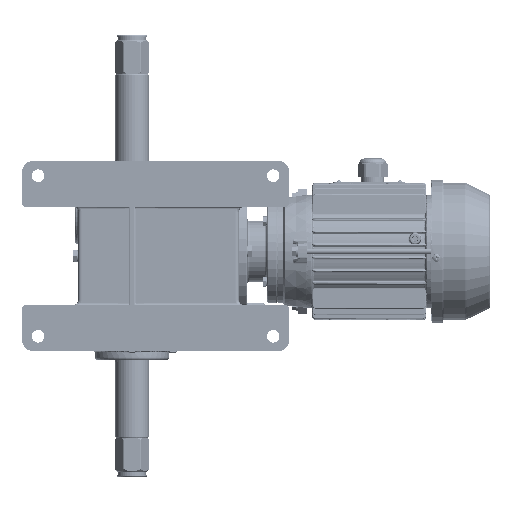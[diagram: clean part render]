
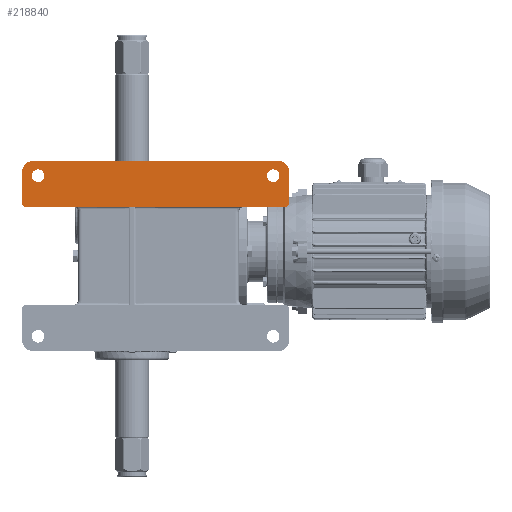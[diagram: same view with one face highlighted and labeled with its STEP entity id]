
A CAD part, left-side view. The second image highlights one B-rep face of the part: STEP entity #218840.
In plain terms, the highlighted planar face has unit normal (-1, 0, 0) as drawn and (0, 1, 0) by its records, which use the part's own axes.
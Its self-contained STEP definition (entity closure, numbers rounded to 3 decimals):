
#7359 = EDGE_CURVE ( 'NONE', #160595, #103721, #149668, .T. ) ;
#16594 = CARTESIAN_POINT ( 'NONE',  ( -36., 60., -123. ) ) ;
#22639 = EDGE_LOOP ( 'NONE', ( #76741, #61466 ) ) ;
#29170 = ORIENTED_EDGE ( 'NONE', *, *, #55855, .T. ) ;
#31118 = EDGE_CURVE ( 'NONE', #135537, #160595, #438470, .T. ) ;
#34132 = DIRECTION ( 'NONE',  ( 0., 0., 1. ) ) ;
#35158 = AXIS2_PLACEMENT_3D ( 'NONE', #142396, #63646, #196718 ) ;
#37032 = EDGE_CURVE ( 'NONE', #393745, #159294, #205882, .T. ) ;
#38377 = VECTOR ( 'NONE', #392286, 1000. ) ;
#39392 = FACE_BOUND ( 'NONE', #242767, .T. ) ;
#41652 = AXIS2_PLACEMENT_3D ( 'NONE', #53472, #274231, #198535 ) ;
#42623 = FACE_BOUND ( 'NONE', #22639, .T. ) ;
#44317 = EDGE_CURVE ( 'NONE', #228897, #101574, #142590, .T. ) ;
#53472 = CARTESIAN_POINT ( 'NONE',  ( -39., 60., -127. ) ) ;
#54121 = CARTESIAN_POINT ( 'NONE',  ( -49., 60., -137. ) ) ;
#55855 = EDGE_CURVE ( 'NONE', #79688, #228897, #199556, .T. ) ;
#57268 = DIRECTION ( 'NONE',  ( 0., 0., 1. ) ) ;
#61466 = ORIENTED_EDGE ( 'NONE', *, *, #440190, .F. ) ;
#63646 = DIRECTION ( 'NONE',  ( 0., 1., 0. ) ) ;
#64222 = DIRECTION ( 'NONE',  ( 0., 1., 0. ) ) ;
#66572 = EDGE_LOOP ( 'NONE', ( #198033, #172292, #257344, #216037, #458154, #415564, #240783, #29170, #328653, #469748 ) ) ;
#73511 = DIRECTION ( 'NONE',  ( 0., 0., -1. ) ) ;
#74029 = DIRECTION ( 'NONE',  ( 0., 0., -1. ) ) ;
#76741 = ORIENTED_EDGE ( 'NONE', *, *, #399737, .F. ) ;
#77719 = CARTESIAN_POINT ( 'NONE',  ( -36., 60., 82. ) ) ;
#79688 = VERTEX_POINT ( 'NONE', #380260 ) ;
#97643 = ORIENTED_EDGE ( 'NONE', *, *, #167633, .F. ) ;
#101574 = VERTEX_POINT ( 'NONE', #370991 ) ;
#102627 = CARTESIAN_POINT ( 'NONE',  ( -12., 60., 96. ) ) ;
#103721 = VERTEX_POINT ( 'NONE', #293378 ) ;
#106565 = DIRECTION ( 'NONE',  ( 0., 1., 0. ) ) ;
#112448 = VERTEX_POINT ( 'NONE', #263657 ) ;
#119073 = DIRECTION ( 'NONE',  ( 0., 0., 1. ) ) ;
#121467 = DIRECTION ( 'NONE',  ( 0., 1., 0. ) ) ;
#127069 = AXIS2_PLACEMENT_3D ( 'NONE', #16594, #64222, #477837 ) ;
#132691 = CARTESIAN_POINT ( 'NONE',  ( -39., 60., 96. ) ) ;
#135537 = VERTEX_POINT ( 'NONE', #417913 ) ;
#139839 = CARTESIAN_POINT ( 'NONE',  ( -12., 60., -134. ) ) ;
#140195 = CARTESIAN_POINT ( 'NONE',  ( -36., 60., -117.5 ) ) ;
#141562 = PLANE ( 'NONE',  #489361 ) ;
#142049 = CARTESIAN_POINT ( 'NONE',  ( -9., 60., 96. ) ) ;
#142396 = CARTESIAN_POINT ( 'NONE',  ( -12., 60., 93. ) ) ;
#142590 = LINE ( 'NONE', #343522, #149945 ) ;
#144746 = VECTOR ( 'NONE', #434147, 1000. ) ;
#144811 = CIRCLE ( 'NONE', #180654, 3. ) ;
#149668 = LINE ( 'NONE', #440515, #144746 ) ;
#149945 = VECTOR ( 'NONE', #119073, 1000. ) ;
#153050 = CARTESIAN_POINT ( 'NONE',  ( -12., 60., -137. ) ) ;
#159294 = VERTEX_POINT ( 'NONE', #102627 ) ;
#160595 = VERTEX_POINT ( 'NONE', #195866 ) ;
#166500 = VERTEX_POINT ( 'NONE', #461475 ) ;
#166663 = EDGE_CURVE ( 'NONE', #101574, #393745, #343748, .T. ) ;
#167633 = EDGE_CURVE ( 'NONE', #410898, #166500, #386767, .T. ) ;
#172292 = ORIENTED_EDGE ( 'NONE', *, *, #464878, .T. ) ;
#180654 = AXIS2_PLACEMENT_3D ( 'NONE', #139839, #194139, #74029 ) ;
#190368 = CARTESIAN_POINT ( 'NONE',  ( -9., 60., 96. ) ) ;
#190989 = DIRECTION ( 'NONE',  ( 0., 0., -1. ) ) ;
#194139 = DIRECTION ( 'NONE',  ( 0., 1., 0. ) ) ;
#195866 = CARTESIAN_POINT ( 'NONE',  ( -9., 60., -98. ) ) ;
#196718 = DIRECTION ( 'NONE',  ( 0., 0., -1. ) ) ;
#198033 = ORIENTED_EDGE ( 'NONE', *, *, #37032, .T. ) ;
#198535 = DIRECTION ( 'NONE',  ( 0., 0., -1. ) ) ;
#199556 = CIRCLE ( 'NONE', #41652, 10. ) ;
#202176 = VECTOR ( 'NONE', #300883, 1000. ) ;
#205882 = LINE ( 'NONE', #480865, #38377 ) ;
#209265 = FACE_OUTER_BOUND ( 'NONE', #66572, .T. ) ;
#210840 = CARTESIAN_POINT ( 'NONE',  ( -36., 60., 76.5 ) ) ;
#216037 = ORIENTED_EDGE ( 'NONE', *, *, #31118, .T. ) ;
#216280 = EDGE_CURVE ( 'NONE', #166500, #410898, #443592, .T. ) ;
#217510 = DIRECTION ( 'NONE',  ( 0., 0., -1. ) ) ;
#218840 = ADVANCED_FACE ( 'NONE', ( #209265, #42623, #39392 ), #141562, .F. ) ;
#228897 = VERTEX_POINT ( 'NONE', #254901 ) ;
#232150 = CARTESIAN_POINT ( 'NONE',  ( -39., 60., 86. ) ) ;
#232495 = DIRECTION ( 'NONE',  ( 0., 0., 1. ) ) ;
#240783 = ORIENTED_EDGE ( 'NONE', *, *, #306822, .T. ) ;
#242767 = EDGE_LOOP ( 'NONE', ( #97643, #288777 ) ) ;
#251641 = AXIS2_PLACEMENT_3D ( 'NONE', #444476, #106565, #34132 ) ;
#254901 = CARTESIAN_POINT ( 'NONE',  ( -49., 60., -127. ) ) ;
#255802 = CIRCLE ( 'NONE', #251641, 5.5 ) ;
#257344 = ORIENTED_EDGE ( 'NONE', *, *, #474847, .T. ) ;
#263476 = VERTEX_POINT ( 'NONE', #210840 ) ;
#263657 = CARTESIAN_POINT ( 'NONE',  ( -36., 60., 87.5 ) ) ;
#263887 = DIRECTION ( 'NONE',  ( 0., 1., 0. ) ) ;
#274231 = DIRECTION ( 'NONE',  ( 0., 1., 0. ) ) ;
#282617 = VERTEX_POINT ( 'NONE', #349105 ) ;
#283837 = VECTOR ( 'NONE', #287222, 1000. ) ;
#287222 = DIRECTION ( 'NONE',  ( 0., 0., -1. ) ) ;
#287755 = DIRECTION ( 'NONE',  ( 0., 1., 0. ) ) ;
#288777 = ORIENTED_EDGE ( 'NONE', *, *, #216280, .F. ) ;
#290734 = VECTOR ( 'NONE', #73511, 1000. ) ;
#293378 = CARTESIAN_POINT ( 'NONE',  ( -9., 60., -134. ) ) ;
#297874 = AXIS2_PLACEMENT_3D ( 'NONE', #77719, #263887, #232495 ) ;
#300883 = DIRECTION ( 'NONE',  ( -1., 0., 0. ) ) ;
#306822 = EDGE_CURVE ( 'NONE', #358577, #79688, #364846, .T. ) ;
#312807 = CARTESIAN_POINT ( 'NONE',  ( -36., 60., -123. ) ) ;
#328653 = ORIENTED_EDGE ( 'NONE', *, *, #44317, .T. ) ;
#343522 = CARTESIAN_POINT ( 'NONE',  ( -49., 60., 96. ) ) ;
#343748 = CIRCLE ( 'NONE', #362860, 10. ) ;
#349105 = CARTESIAN_POINT ( 'NONE',  ( -9., 60., 93. ) ) ;
#358577 = VERTEX_POINT ( 'NONE', #153050 ) ;
#361217 = CIRCLE ( 'NONE', #35158, 3. ) ;
#362860 = AXIS2_PLACEMENT_3D ( 'NONE', #232150, #121467, #190989 ) ;
#364846 = LINE ( 'NONE', #54121, #202176 ) ;
#365994 = CARTESIAN_POINT ( 'NONE',  ( -49., 60., 47. ) ) ;
#370991 = CARTESIAN_POINT ( 'NONE',  ( -49., 60., 86. ) ) ;
#378111 = CIRCLE ( 'NONE', #297874, 5.5 ) ;
#380260 = CARTESIAN_POINT ( 'NONE',  ( -39., 60., -137. ) ) ;
#386767 = CIRCLE ( 'NONE', #127069, 5.5 ) ;
#392286 = DIRECTION ( 'NONE',  ( 1., 0., 0. ) ) ;
#393745 = VERTEX_POINT ( 'NONE', #132691 ) ;
#399737 = EDGE_CURVE ( 'NONE', #112448, #263476, #255802, .T. ) ;
#410898 = VERTEX_POINT ( 'NONE', #140195 ) ;
#415564 = ORIENTED_EDGE ( 'NONE', *, *, #419676, .T. ) ;
#417913 = CARTESIAN_POINT ( 'NONE',  ( -9., 60., 52. ) ) ;
#419676 = EDGE_CURVE ( 'NONE', #103721, #358577, #144811, .T. ) ;
#434147 = DIRECTION ( 'NONE',  ( 0., 0., -1. ) ) ;
#438470 = LINE ( 'NONE', #142049, #283837 ) ;
#440190 = EDGE_CURVE ( 'NONE', #263476, #112448, #378111, .T. ) ;
#440515 = CARTESIAN_POINT ( 'NONE',  ( -9., 60., 96. ) ) ;
#443592 = CIRCLE ( 'NONE', #484466, 5.5 ) ;
#444476 = CARTESIAN_POINT ( 'NONE',  ( -36., 60., 82. ) ) ;
#455825 = LINE ( 'NONE', #190368, #290734 ) ;
#458154 = ORIENTED_EDGE ( 'NONE', *, *, #7359, .T. ) ;
#461475 = CARTESIAN_POINT ( 'NONE',  ( -36., 60., -128.5 ) ) ;
#464878 = EDGE_CURVE ( 'NONE', #159294, #282617, #361217, .T. ) ;
#469748 = ORIENTED_EDGE ( 'NONE', *, *, #166663, .T. ) ;
#474847 = EDGE_CURVE ( 'NONE', #282617, #135537, #455825, .T. ) ;
#477837 = DIRECTION ( 'NONE',  ( 0., 0., 1. ) ) ;
#479629 = DIRECTION ( 'NONE',  ( 0., -1., 0. ) ) ;
#480865 = CARTESIAN_POINT ( 'NONE',  ( -49., 60., 96. ) ) ;
#484466 = AXIS2_PLACEMENT_3D ( 'NONE', #312807, #287755, #57268 ) ;
#489361 = AXIS2_PLACEMENT_3D ( 'NONE', #365994, #479629, #217510 ) ;
